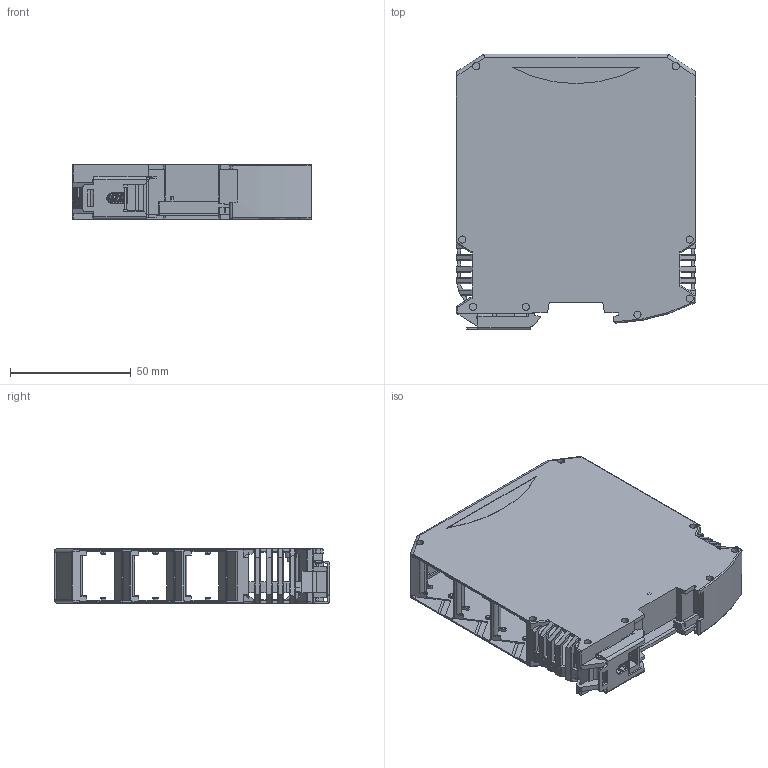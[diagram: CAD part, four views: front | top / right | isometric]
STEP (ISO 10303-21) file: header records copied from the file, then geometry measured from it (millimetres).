
FILE_DESCRIPTION((''),'2;1');
FILE_NAME('44_SW0001','2022-03-21T10:14:38',('Administrator'),(''),'CREO PARAMETRIC BY PTC INC, 2018050','CREO PARAMETRIC BY PTC INC, 2018050','');
FILE_SCHEMA(('CONFIG_CONTROL_DESIGN'));
Length unit declared in the file: millimetre
Products named in the file (1): 44_SW0001
Bounding box: 99 x 114 x 22.7 mm (x, y, z)
Volume: 39566 mm3; surface area: 65531.9 mm2
Topology: 1 solids, 5 shells, 1372 faces, 4007 edges, 2609 vertices
Faces by surface type: plane 940, cylinder 376, cone 39, torus 6, bspline 6, extrusion 3, sphere 2
Entity records: 61770 total; most frequent: CARTESIAN_POINT 25313, ORIENTED_EDGE 8010, DIRECTION 7110, EDGE_CURVE 4005, VECTOR 3068, LINE 3065, VERTEX_POINT 2609, AXIS2_PLACEMENT_3D 2021
